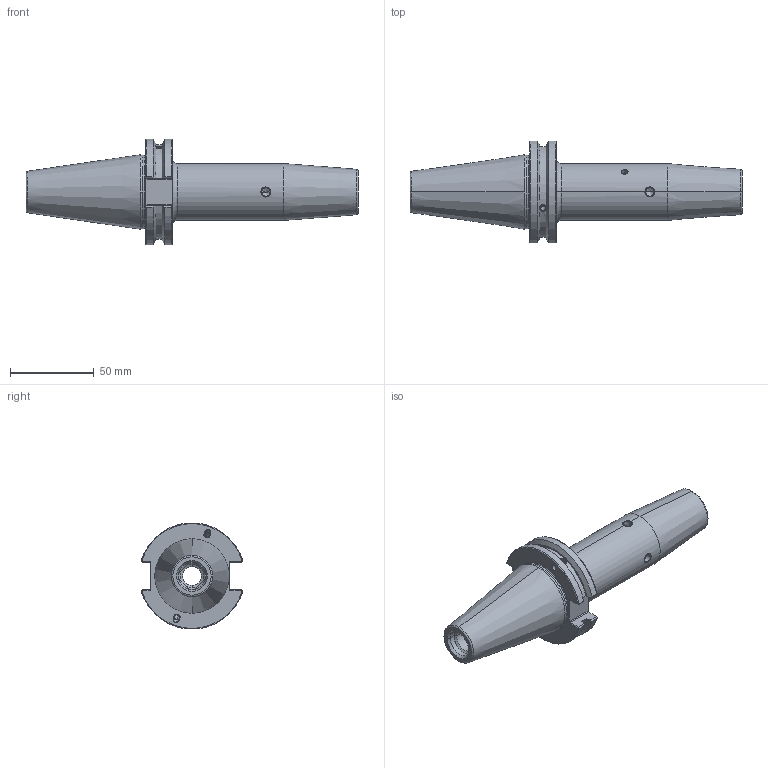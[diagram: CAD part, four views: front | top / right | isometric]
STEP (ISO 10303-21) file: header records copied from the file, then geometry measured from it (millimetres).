
FILE_DESCRIPTION((''),'2;1');
FILE_NAME('CAT40ADB-SFH15_875C-130','2020-09-02T08:32:15',('ssktool'),(''),'CREO PARAMETRIC BY PTC INC, 2018100','CREO PARAMETRIC BY PTC INC, 2018100','');
FILE_SCHEMA(('CONFIG_CONTROL_DESIGN'));
Length unit declared in the file: millimetre
Products named in the file (1): CAT40ADB-SFH15_875C-130
Bounding box: 198.25 x 60.84 x 63.27 mm (x, y, z)
Volume: 172105.8 mm3; surface area: 41304.7 mm2
Topology: 1 solids, 10 shells, 196 faces, 524 edges, 330 vertices
Faces by surface type: cylinder 84, plane 52, cone 38, torus 18, bspline 4
Entity records: 6793 total; most frequent: CARTESIAN_POINT 2034, DIRECTION 964, ORIENTED_EDGE 960, EDGE_CURVE 508, AXIS2_PLACEMENT_3D 383, VERTEX_POINT 330, EDGE_LOOP 228, VECTOR 198
